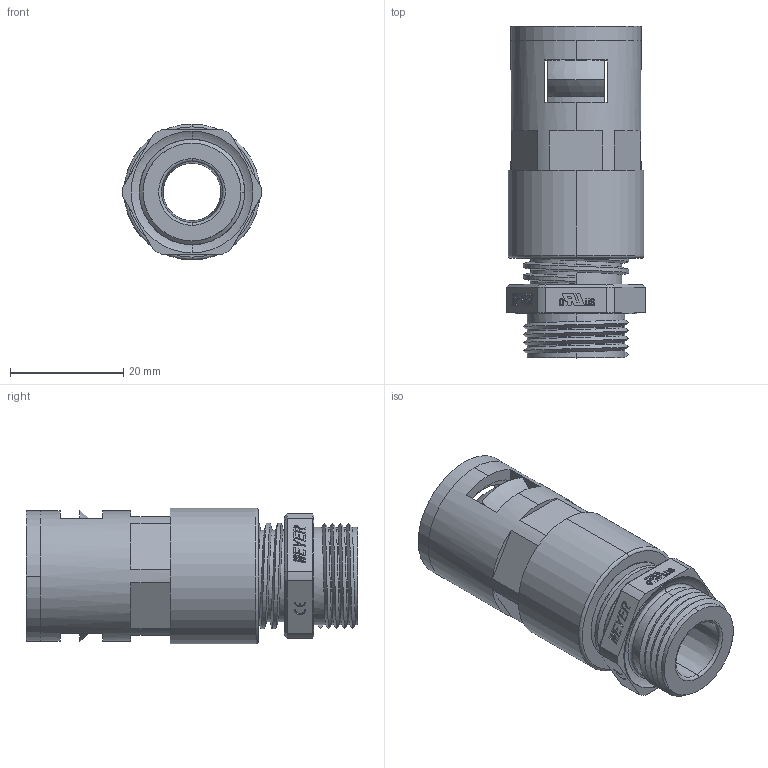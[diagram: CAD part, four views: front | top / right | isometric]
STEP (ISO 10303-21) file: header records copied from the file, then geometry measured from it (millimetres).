
FILE_DESCRIPTION (( 'STEP AP203' ), '1' );
FILE_NAME ('WQGZ-P11-AD15.8.STEP', '2020-03-11T05:40:48', ( '' ), ( '' ), 'SwSTEP 2.0', 'SolidWorks 2016', '' );
FILE_SCHEMA (( 'CONFIG_CONTROL_DESIGN' ));
Length unit declared in the file: millimetre
Products named in the file (8): WQG2-Tr18-AD15.8-01; WQGZ-P11-AD15.8; WQG2-Tr18-AD15.8; CTH-P11; HSK-P11-01; GFD-AD15.8; 蚾饜极1; NSK-AD15.8
Assembly tree (7 placements, depth 3):
  WQGZ-P11-AD15.8
    WQG2-Tr18-AD15.8
      WQG2-Tr18-AD15.8-01
      GFD-AD15.8
      NSK-AD15.8
    蚾饜极1
      HSK-P11-01
      CTH-P11
Bounding box: 24.49 x 58.6 x 24 mm (x, y, z)
Volume: 13755.1 mm3; surface area: 14373 mm2
Topology: 5 solids, 5 shells, 523 faces, 1348 edges, 859 vertices
Faces by surface type: plane 282, cone 77, cylinder 72, bspline 49, torus 43
Entity records: 20647 total; most frequent: CARTESIAN_POINT 7345, ORIENTED_EDGE 2696, DIRECTION 2470, EDGE_CURVE 1348, VERTEX_POINT 859, AXIS2_PLACEMENT_3D 855, VECTOR 760, LINE 760
